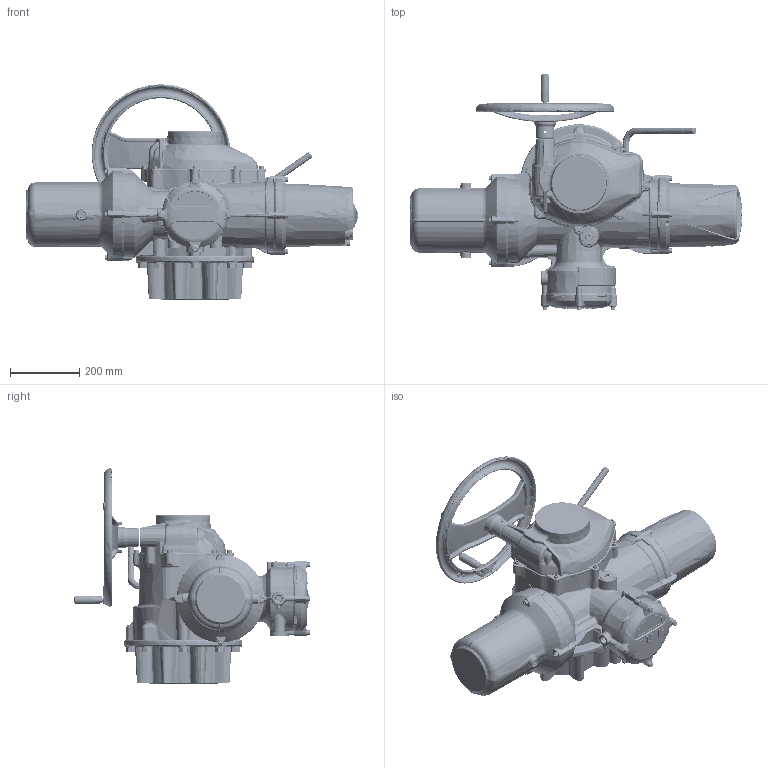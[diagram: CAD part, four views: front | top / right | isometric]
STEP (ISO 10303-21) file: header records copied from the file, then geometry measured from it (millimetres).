
FILE_DESCRIPTION( ( 'Unknown' ), '1' );
FILE_NAME( 'S:/Release/Datasheets for P.E/size45 models for website/II40_SHW_F25_B1-1.stp', 'Unknown', ( 'Unknown' ), ( 'Unknown' ), 'PSStep 15.0.49', 'Unknown', ' ' );
FILE_SCHEMA( ( 'AUTOMOTIVE_DESIGN { 1 0 10303 214 1 1 1 1 }' ) );
Length unit declared in the file: millimetre
Products named in the file (9): II45-01-std
Bounding box: 958.3 x 680.05 x 622 mm (x, y, z)
Volume: 916461.3 mm3; surface area: 1850461.6 mm2
Topology: 45 solids, 47 shells, 6897 faces, 17109 edges, 10103 vertices
Faces by surface type: bspline 2616, plane 1723, cylinder 976, torus 700, cone 537, sphere 198, extrusion 108, revolution 21, offset 18
Full cylindrical faces by diameter (mm): 1.152 x1, 3 x10, 3.5 x1, 6 x5, 6.45 x4, 6.47 x4, 6.5 x1, 6.647 x8, 7 x4, 7.6 x4, 8 x21, 8.1 x1, 8.2 x1, 8.3 x2, 8.376 x1, 8.5 x4, 9.7 x1, 10 x1, 12 x2, 12.1 x1, 13 x12, 13.25 x7, 13.835 x16, 16 x9, 16.75 x1, 17 x8, 18 x2, 20 x2, 24.75 x1, 24.78 x1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
Entity records: 695751 total; most frequent: CARTESIAN_POINT 501828, ORIENTED_EDGE 32320, DIRECTION 23849, EDGE_CURVE 16160, AXIS2_PLACEMENT_3D 10028, VERTEX_POINT 9859, EDGE_LOOP 7484, FACE_OUTER_BOUND 7146
